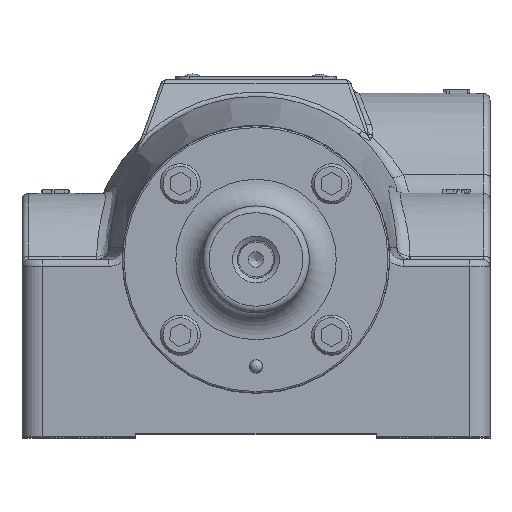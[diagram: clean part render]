
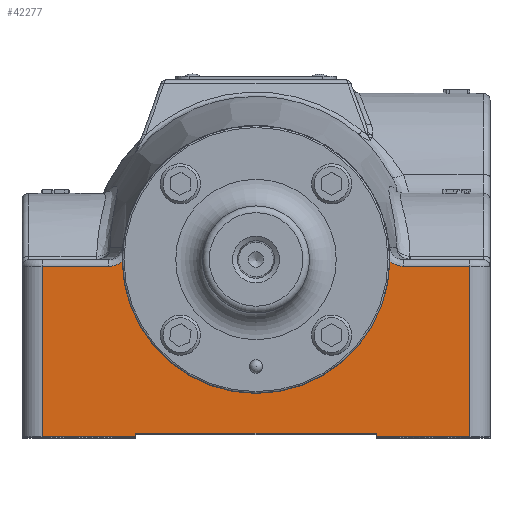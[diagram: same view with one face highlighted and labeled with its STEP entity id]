
A CAD part, top view. The second image highlights one B-rep face of the part: STEP entity #42277.
In plain terms, the highlighted planar face has unit normal (0, 0, 1).
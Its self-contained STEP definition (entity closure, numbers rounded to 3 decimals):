
#1279=B_SPLINE_CURVE_WITH_KNOTS('',3,(#72094,#72095,#72096,#72097,#72098),
 .UNSPECIFIED.,.F.,.F.,(4,1,4),(0.,0.291,0.347),
 .UNSPECIFIED.);
#1287=B_SPLINE_CURVE_WITH_KNOTS('',3,(#72281,#72282,#72283,#72284),
 .UNSPECIFIED.,.F.,.F.,(4,4),(0.356,0.703),
 .UNSPECIFIED.);
#3997=CIRCLE('',#45303,3.178);
#6469=FACE_OUTER_BOUND('',#9076,.T.);
#9076=EDGE_LOOP('',(#30318,#30319,#30320,#30321,#30322,#30323,#30324,#30325,
#30326,#30327,#30328,#30329));
#11292=LINE('',#70717,#13808);
#11358=LINE('',#71860,#13874);
#11363=LINE('',#71873,#13879);
#11366=LINE('',#71877,#13882);
#11367=LINE('',#71879,#13883);
#11379=LINE('',#71931,#13895);
#11385=LINE('',#71988,#13901);
#11387=LINE('',#72162,#13903);
#11395=LINE('',#72408,#13911);
#13808=VECTOR('',#51153,1.);
#13874=VECTOR('',#51405,1.);
#13879=VECTOR('',#51418,1.);
#13882=VECTOR('',#51423,1.);
#13883=VECTOR('',#51426,1.);
#13895=VECTOR('',#51466,1.);
#13901=VECTOR('',#51544,1.);
#13903=VECTOR('',#51552,1.);
#13911=VECTOR('',#51648,1.);
#16879=VERTEX_POINT('',#70701);
#16885=VERTEX_POINT('',#70715);
#16942=VERTEX_POINT('',#71857);
#16943=VERTEX_POINT('',#71859);
#16945=VERTEX_POINT('',#71869);
#16947=VERTEX_POINT('',#71872);
#16964=VERTEX_POINT('',#71930);
#16978=VERTEX_POINT('',#71984);
#16982=VERTEX_POINT('',#72066);
#16987=VERTEX_POINT('',#72155);
#16990=VERTEX_POINT('',#72160);
#17013=VERTEX_POINT('',#72276);
#21290=EDGE_CURVE('',#16879,#16885,#11292,.T.);
#21415=EDGE_CURVE('',#16943,#16942,#11358,.T.);
#21421=EDGE_CURVE('',#16947,#16945,#11363,.T.);
#21424=EDGE_CURVE('',#16885,#16943,#11366,.T.);
#21425=EDGE_CURVE('',#16942,#16947,#11367,.T.);
#21447=EDGE_CURVE('',#16879,#16964,#11379,.T.);
#21476=EDGE_CURVE('',#16964,#16978,#11385,.T.);
#21481=EDGE_CURVE('',#16978,#16982,#1279,.T.);
#21490=EDGE_CURVE('',#16990,#16987,#11387,.T.);
#21527=EDGE_CURVE('',#17013,#16990,#1287,.T.);
#21539=EDGE_CURVE('',#16987,#16945,#11395,.T.);
#21600=EDGE_CURVE('',#16982,#17013,#3997,.T.);
#30318=ORIENTED_EDGE('',*,*,#21421,.T.);
#30319=ORIENTED_EDGE('',*,*,#21539,.F.);
#30320=ORIENTED_EDGE('',*,*,#21490,.F.);
#30321=ORIENTED_EDGE('',*,*,#21527,.F.);
#30322=ORIENTED_EDGE('',*,*,#21600,.F.);
#30323=ORIENTED_EDGE('',*,*,#21481,.F.);
#30324=ORIENTED_EDGE('',*,*,#21476,.F.);
#30325=ORIENTED_EDGE('',*,*,#21447,.F.);
#30326=ORIENTED_EDGE('',*,*,#21290,.T.);
#30327=ORIENTED_EDGE('',*,*,#21424,.T.);
#30328=ORIENTED_EDGE('',*,*,#21415,.T.);
#30329=ORIENTED_EDGE('',*,*,#21425,.T.);
#38048=PLANE('',#45432);
#42277=ADVANCED_FACE('',(#6469),#38048,.T.);
#45303=AXIS2_PLACEMENT_3D('',#73044,#51722,#51723);
#45432=AXIS2_PLACEMENT_3D('',#87799,#52192,#52193);
#51153=DIRECTION('',(1.,0.,0.));
#51405=DIRECTION('',(1.,0.,0.));
#51418=DIRECTION('',(1.,0.,0.));
#51423=DIRECTION('',(0.,1.,0.));
#51426=DIRECTION('',(0.,-1.,0.));
#51466=DIRECTION('',(0.,1.,0.));
#51544=DIRECTION('',(1.,0.,0.));
#51552=DIRECTION('',(1.,0.,0.));
#51648=DIRECTION('',(0.,-1.,0.));
#51722=DIRECTION('center_axis',(0.,0.,1.));
#51723=DIRECTION('ref_axis',(-1.,0.,0.));
#52192=DIRECTION('center_axis',(0.,0.,1.));
#52193=DIRECTION('ref_axis',(1.,0.,0.));
#70701=CARTESIAN_POINT('',(-5.08,-4.207,8.652));
#70715=CARTESIAN_POINT('',(-2.858,-4.207,8.652));
#70717=CARTESIAN_POINT('',(0.,-4.207,8.652));
#71857=CARTESIAN_POINT('',(2.858,-4.128,8.652));
#71859=CARTESIAN_POINT('',(-2.858,-4.128,8.652));
#71860=CARTESIAN_POINT('',(0.,-4.128,8.652));
#71869=CARTESIAN_POINT('',(5.08,-4.207,8.652));
#71872=CARTESIAN_POINT('',(2.858,-4.207,8.652));
#71873=CARTESIAN_POINT('',(0.,-4.207,8.652));
#71877=CARTESIAN_POINT('',(-2.858,-4.247,8.652));
#71879=CARTESIAN_POINT('',(2.858,-4.247,8.652));
#71930=CARTESIAN_POINT('',(-5.08,-0.159,8.652));
#71931=CARTESIAN_POINT('',(-5.08,-3.215,8.652));
#71984=CARTESIAN_POINT('',(-3.497,-0.159,8.652));
#71988=CARTESIAN_POINT('',(0.,-0.159,8.652));
#72066=CARTESIAN_POINT('',(-3.177,-0.037,8.652));
#72094=CARTESIAN_POINT('Ctrl Pts',(-3.497,-0.159,
8.652));
#72095=CARTESIAN_POINT('Ctrl Pts',(-3.4,-0.159,
8.652));
#72096=CARTESIAN_POINT('Ctrl Pts',(-3.283,-0.122,
8.652));
#72097=CARTESIAN_POINT('Ctrl Pts',(-3.192,-0.05,
8.652));
#72098=CARTESIAN_POINT('Ctrl Pts',(-3.178,-0.037,
8.652));
#72155=CARTESIAN_POINT('',(5.08,-0.159,8.652));
#72160=CARTESIAN_POINT('',(3.497,-0.159,8.652));
#72162=CARTESIAN_POINT('',(0.,-0.159,8.652));
#72276=CARTESIAN_POINT('',(3.177,-0.037,8.652));
#72281=CARTESIAN_POINT('Ctrl Pts',(3.178,-0.037,
8.652));
#72282=CARTESIAN_POINT('Ctrl Pts',(3.265,-0.114,
8.652));
#72283=CARTESIAN_POINT('Ctrl Pts',(3.381,-0.159,
8.652));
#72284=CARTESIAN_POINT('Ctrl Pts',(3.497,-0.159,
8.652));
#72408=CARTESIAN_POINT('',(5.08,-3.215,8.652));
#73044=CARTESIAN_POINT('Origin',(0.,0.,8.652));
#87799=CARTESIAN_POINT('Origin',(0.,-4.286,8.652));
